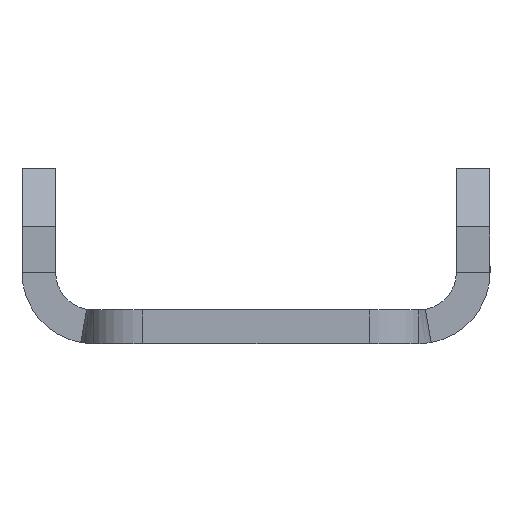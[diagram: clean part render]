
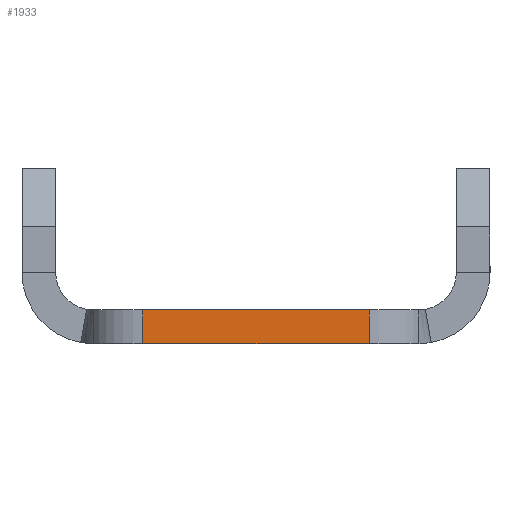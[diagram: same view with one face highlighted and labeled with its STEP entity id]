
A CAD part, left-side view. The second image highlights one B-rep face of the part: STEP entity #1933.
In plain terms, the highlighted planar face has unit normal (-1, 0, 0).
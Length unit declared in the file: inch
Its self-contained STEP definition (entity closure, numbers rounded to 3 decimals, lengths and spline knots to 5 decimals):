
#249 = CARTESIAN_POINT ( 'NONE',  ( -7.8195, 0.242, 0.072 ) ) ;
#250 = LINE ( 'NONE', #249, #266 ) ;
#257 = DIRECTION ( 'NONE',  ( 0., -1., 0. ) ) ;
#266 = VECTOR ( 'NONE', #257, 39.37008 ) ;
#554 = CARTESIAN_POINT ( 'NONE',  ( -7.8195, -0.242, 0.072 ) ) ;
#819 = DIRECTION ( 'NONE',  ( 0., 0., -1. ) ) ;
#820 = VECTOR ( 'NONE', #819, 39.37008 ) ;
#821 = CARTESIAN_POINT ( 'NONE',  ( -7.8195, -0.242, 0.072 ) ) ;
#823 = VECTOR ( 'NONE', #923, 39.37008 ) ;
#824 = LINE ( 'NONE', #821, #820 ) ;
#902 = CARTESIAN_POINT ( 'NONE',  ( -7.8195, -0.242, 0. ) ) ;
#921 = LINE ( 'NONE', #924, #823 ) ;
#923 = DIRECTION ( 'NONE',  ( 0., -1., 0. ) ) ;
#924 = CARTESIAN_POINT ( 'NONE',  ( -7.8195, 0.242, 0. ) ) ;
#972 = CARTESIAN_POINT ( 'NONE',  ( -7.8195, 0.242, 0.072 ) ) ;
#1744 = VERTEX_POINT ( 'NONE', #3426 ) ;
#1805 = EDGE_LOOP ( 'NONE', ( #1814, #2029, #1930, #1860 ) ) ;
#1814 = ORIENTED_EDGE ( 'NONE', *, *, #3715, .T. ) ;
#1858 = EDGE_CURVE ( 'NONE', #3751, #1744, #3905, .T. ) ;
#1860 = ORIENTED_EDGE ( 'NONE', *, *, #1858, .T. ) ;
#1930 = ORIENTED_EDGE ( 'NONE', *, *, #3727, .F. ) ;
#1933 = ADVANCED_FACE ( 'NONE', ( #3984 ), #3826, .F. ) ;
#2029 = ORIENTED_EDGE ( 'NONE', *, *, #3717, .F. ) ;
#3426 = CARTESIAN_POINT ( 'NONE',  ( -7.8195, 0.242, 0. ) ) ;
#3528 = VERTEX_POINT ( 'NONE', #554 ) ;
#3704 = VERTEX_POINT ( 'NONE', #902 ) ;
#3715 = EDGE_CURVE ( 'NONE', #1744, #3704, #921, .T. ) ;
#3717 = EDGE_CURVE ( 'NONE', #3528, #3704, #824, .T. ) ;
#3727 = EDGE_CURVE ( 'NONE', #3751, #3528, #250, .T. ) ;
#3751 = VERTEX_POINT ( 'NONE', #972 ) ;
#3793 = DIRECTION ( 'NONE',  ( 0., 0., -1. ) ) ;
#3794 = DIRECTION ( 'NONE',  ( 1., 0., 0. ) ) ;
#3795 = CARTESIAN_POINT ( 'NONE',  ( -7.8195, 0.242, 0.072 ) ) ;
#3822 = AXIS2_PLACEMENT_3D ( 'NONE', #3795, #3794, #3793 ) ;
#3826 = PLANE ( 'NONE',  #3822 ) ;
#3902 = DIRECTION ( 'NONE',  ( 0., 0., -1. ) ) ;
#3903 = VECTOR ( 'NONE', #3902, 39.37008 ) ;
#3904 = CARTESIAN_POINT ( 'NONE',  ( -7.8195, 0.242, 0.072 ) ) ;
#3905 = LINE ( 'NONE', #3904, #3903 ) ;
#3984 = FACE_OUTER_BOUND ( 'NONE', #1805, .T. ) ;
